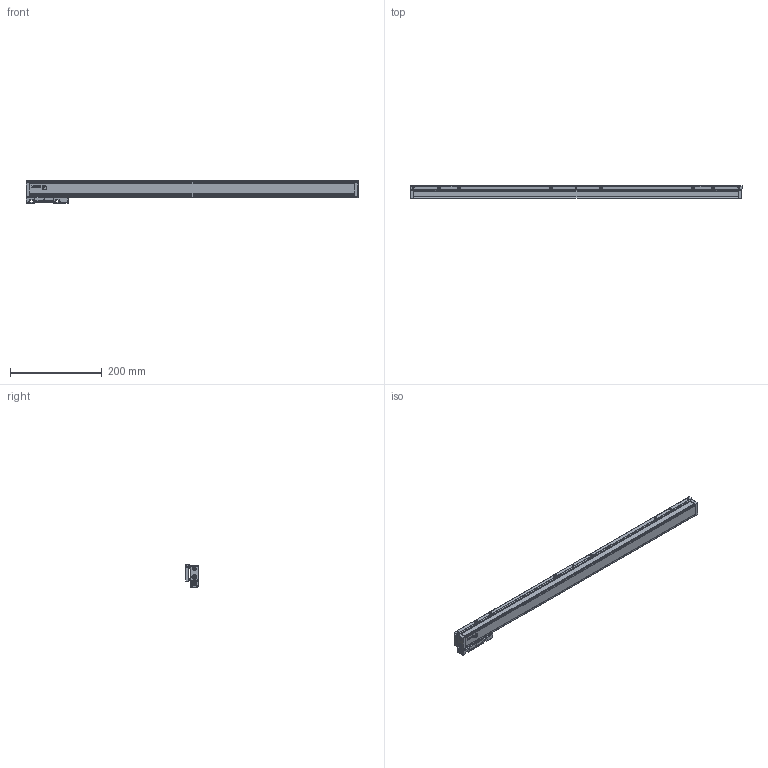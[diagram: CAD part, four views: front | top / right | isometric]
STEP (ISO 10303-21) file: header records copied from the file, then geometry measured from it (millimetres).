
FILE_DESCRIPTION(('Creo Elements/Direct Modeling STEP Export'),'2;1');
FILE_NAME('REGLA_SV3-620-B.stp','2020-10-30T12:55:23',(''),(''),'Creo Elements/Direct Modeling STEP processor for AP214 (Solid Model)','Creo Elements/Direct Modeling 19.0G 27-Nov-2017 (C) Parametric Technology GmbH','');
FILE_SCHEMA(('AUTOMOTIVE_DESIGN { 1 0 10303 214 1 1 1 1 }'));
Length unit declared in the file: millimetre
Products named in the file (4): PERFIL_SOPORTE_MECANIZADO_REGLA_SV3-620; CABEZA_RANURADA_REGLA_S3; PERFIL_REGLA_SV3-620; REGLA_SV3-620
Assembly tree (3 placements, depth 2):
  REGLA_SV3-620
    PERFIL_REGLA_SV3-620
    CABEZA_RANURADA_REGLA_S3
    PERFIL_SOPORTE_MECANIZADO_REGLA_SV3-620
Bounding box: 725 x 28.3 x 48.1 mm (x, y, z)
Volume: 580442.8 mm3; surface area: 193780.3 mm2
Topology: 3 solids, 26 shells, 2756 faces, 8593 edges, 5943 vertices
Faces by surface type: plane 1674, cylinder 795, cone 222, bspline 33, torus 32
Entity records: 110207 total; most frequent: CARTESIAN_POINT 22842, ORIENTED_EDGE 17142, DIRECTION 13950, EDGE_CURVE 8569, VERTEX_POINT 5943, VECTOR 5770, LINE 5770, AXIS2_PLACEMENT_3D 4090
